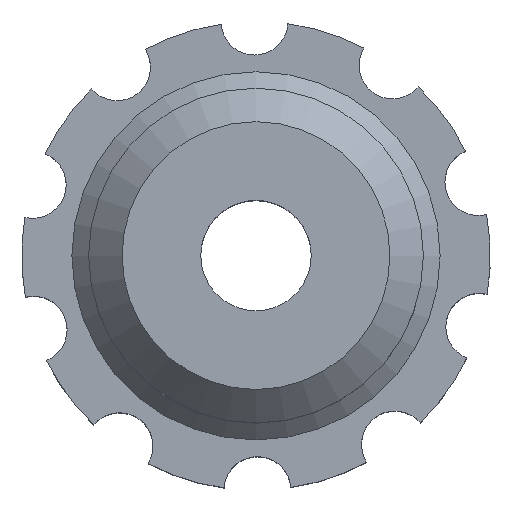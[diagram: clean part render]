
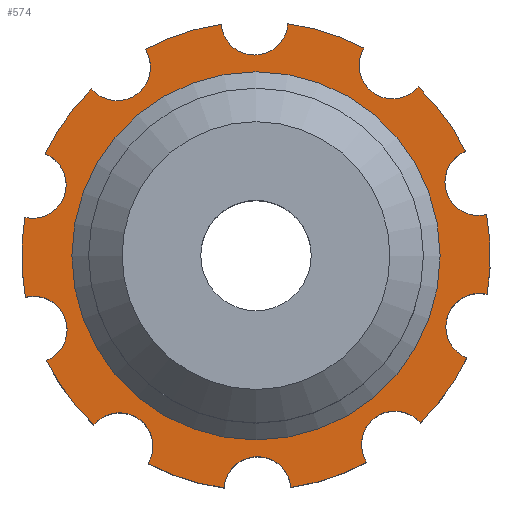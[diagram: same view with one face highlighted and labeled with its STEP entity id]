
A CAD part, top view. The second image highlights one B-rep face of the part: STEP entity #574.
In plain terms, the highlighted planar face has unit normal (0, 0, 1).
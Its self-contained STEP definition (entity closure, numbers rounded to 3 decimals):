
#42=FACE_BOUND('',#140,.T.);
#49=CIRCLE('',#611,5.5);
#51=CIRCLE('',#615,1.);
#52=CIRCLE('',#616,7.);
#53=CIRCLE('',#617,1.);
#54=CIRCLE('',#618,7.);
#55=CIRCLE('',#619,1.);
#56=CIRCLE('',#620,7.);
#57=CIRCLE('',#621,1.);
#58=CIRCLE('',#622,7.);
#59=CIRCLE('',#623,1.);
#60=CIRCLE('',#624,7.);
#61=CIRCLE('',#625,1.);
#62=CIRCLE('',#626,7.);
#63=CIRCLE('',#627,1.);
#64=CIRCLE('',#628,7.);
#65=CIRCLE('',#629,1.);
#66=CIRCLE('',#630,7.);
#67=CIRCLE('',#631,1.);
#68=CIRCLE('',#632,7.);
#69=CIRCLE('',#633,1.);
#70=CIRCLE('',#634,7.);
#102=FACE_OUTER_BOUND('',#139,.T.);
#139=EDGE_LOOP('',(#422,#423,#424,#425,#426,#427,#428,#429,#430,#431,#432,
#433,#434,#435,#436,#437,#438,#439,#440,#441));
#140=EDGE_LOOP('',(#442));
#259=VERTEX_POINT('',#924);
#261=VERTEX_POINT('',#930);
#262=VERTEX_POINT('',#931);
#263=VERTEX_POINT('',#933);
#264=VERTEX_POINT('',#935);
#265=VERTEX_POINT('',#937);
#266=VERTEX_POINT('',#939);
#267=VERTEX_POINT('',#941);
#268=VERTEX_POINT('',#943);
#269=VERTEX_POINT('',#945);
#270=VERTEX_POINT('',#947);
#271=VERTEX_POINT('',#949);
#272=VERTEX_POINT('',#951);
#273=VERTEX_POINT('',#953);
#274=VERTEX_POINT('',#955);
#275=VERTEX_POINT('',#957);
#276=VERTEX_POINT('',#959);
#277=VERTEX_POINT('',#961);
#278=VERTEX_POINT('',#963);
#279=VERTEX_POINT('',#965);
#280=VERTEX_POINT('',#967);
#323=EDGE_CURVE('',#259,#259,#49,.T.);
#325=EDGE_CURVE('',#261,#262,#51,.T.);
#326=EDGE_CURVE('',#262,#263,#52,.T.);
#327=EDGE_CURVE('',#263,#264,#53,.T.);
#328=EDGE_CURVE('',#264,#265,#54,.T.);
#329=EDGE_CURVE('',#265,#266,#55,.T.);
#330=EDGE_CURVE('',#266,#267,#56,.T.);
#331=EDGE_CURVE('',#267,#268,#57,.T.);
#332=EDGE_CURVE('',#268,#269,#58,.T.);
#333=EDGE_CURVE('',#269,#270,#59,.T.);
#334=EDGE_CURVE('',#270,#271,#60,.T.);
#335=EDGE_CURVE('',#271,#272,#61,.T.);
#336=EDGE_CURVE('',#272,#273,#62,.T.);
#337=EDGE_CURVE('',#273,#274,#63,.T.);
#338=EDGE_CURVE('',#274,#275,#64,.T.);
#339=EDGE_CURVE('',#275,#276,#65,.T.);
#340=EDGE_CURVE('',#276,#277,#66,.T.);
#341=EDGE_CURVE('',#277,#278,#67,.T.);
#342=EDGE_CURVE('',#278,#279,#68,.T.);
#343=EDGE_CURVE('',#279,#280,#69,.T.);
#344=EDGE_CURVE('',#280,#261,#70,.T.);
#422=ORIENTED_EDGE('',*,*,#325,.T.);
#423=ORIENTED_EDGE('',*,*,#326,.T.);
#424=ORIENTED_EDGE('',*,*,#327,.T.);
#425=ORIENTED_EDGE('',*,*,#328,.T.);
#426=ORIENTED_EDGE('',*,*,#329,.T.);
#427=ORIENTED_EDGE('',*,*,#330,.T.);
#428=ORIENTED_EDGE('',*,*,#331,.T.);
#429=ORIENTED_EDGE('',*,*,#332,.T.);
#430=ORIENTED_EDGE('',*,*,#333,.T.);
#431=ORIENTED_EDGE('',*,*,#334,.T.);
#432=ORIENTED_EDGE('',*,*,#335,.T.);
#433=ORIENTED_EDGE('',*,*,#336,.T.);
#434=ORIENTED_EDGE('',*,*,#337,.T.);
#435=ORIENTED_EDGE('',*,*,#338,.T.);
#436=ORIENTED_EDGE('',*,*,#339,.T.);
#437=ORIENTED_EDGE('',*,*,#340,.T.);
#438=ORIENTED_EDGE('',*,*,#341,.T.);
#439=ORIENTED_EDGE('',*,*,#342,.T.);
#440=ORIENTED_EDGE('',*,*,#343,.T.);
#441=ORIENTED_EDGE('',*,*,#344,.T.);
#442=ORIENTED_EDGE('',*,*,#323,.F.);
#562=PLANE('',#614);
#574=ADVANCED_FACE('',(#102,#42),#562,.T.);
#611=AXIS2_PLACEMENT_3D('',#925,#721,#722);
#614=AXIS2_PLACEMENT_3D('',#929,#727,#728);
#615=AXIS2_PLACEMENT_3D('',#932,#729,#730);
#616=AXIS2_PLACEMENT_3D('',#934,#731,#732);
#617=AXIS2_PLACEMENT_3D('',#936,#733,#734);
#618=AXIS2_PLACEMENT_3D('',#938,#735,#736);
#619=AXIS2_PLACEMENT_3D('',#940,#737,#738);
#620=AXIS2_PLACEMENT_3D('',#942,#739,#740);
#621=AXIS2_PLACEMENT_3D('',#944,#741,#742);
#622=AXIS2_PLACEMENT_3D('',#946,#743,#744);
#623=AXIS2_PLACEMENT_3D('',#948,#745,#746);
#624=AXIS2_PLACEMENT_3D('',#950,#747,#748);
#625=AXIS2_PLACEMENT_3D('',#952,#749,#750);
#626=AXIS2_PLACEMENT_3D('',#954,#751,#752);
#627=AXIS2_PLACEMENT_3D('',#956,#753,#754);
#628=AXIS2_PLACEMENT_3D('',#958,#755,#756);
#629=AXIS2_PLACEMENT_3D('',#960,#757,#758);
#630=AXIS2_PLACEMENT_3D('',#962,#759,#760);
#631=AXIS2_PLACEMENT_3D('',#964,#761,#762);
#632=AXIS2_PLACEMENT_3D('',#966,#763,#764);
#633=AXIS2_PLACEMENT_3D('',#968,#765,#766);
#634=AXIS2_PLACEMENT_3D('',#969,#767,#768);
#721=DIRECTION('center_axis',(0.,0.,1.));
#722=DIRECTION('ref_axis',(-1.,0.,0.));
#727=DIRECTION('center_axis',(0.,0.,1.));
#728=DIRECTION('ref_axis',(1.,0.,0.));
#729=DIRECTION('center_axis',(0.,0.,-1.));
#730=DIRECTION('ref_axis',(-0.852,0.523,0.));
#731=DIRECTION('center_axis',(0.,0.,1.));
#732=DIRECTION('ref_axis',(-1.,0.,0.));
#733=DIRECTION('center_axis',(0.,0.,-1.));
#734=DIRECTION('ref_axis',(-0.997,-0.078,0.));
#735=DIRECTION('center_axis',(0.,0.,1.));
#736=DIRECTION('ref_axis',(-1.,0.,0.));
#737=DIRECTION('center_axis',(0.,0.,-1.));
#738=DIRECTION('ref_axis',(-0.761,-0.649,0.));
#739=DIRECTION('center_axis',(0.,0.,1.));
#740=DIRECTION('ref_axis',(-1.,0.,0.));
#741=DIRECTION('center_axis',(0.,0.,-1.));
#742=DIRECTION('ref_axis',(-0.234,-0.972,0.));
#743=DIRECTION('center_axis',(0.,0.,1.));
#744=DIRECTION('ref_axis',(-1.,0.,0.));
#745=DIRECTION('center_axis',(0.,0.,-1.));
#746=DIRECTION('ref_axis',(0.382,-0.924,0.));
#747=DIRECTION('center_axis',(0.,0.,1.));
#748=DIRECTION('ref_axis',(-1.,0.,0.));
#749=DIRECTION('center_axis',(0.,0.,-1.));
#750=DIRECTION('ref_axis',(0.852,-0.523,0.));
#751=DIRECTION('center_axis',(0.,0.,1.));
#752=DIRECTION('ref_axis',(-1.,0.,0.));
#753=DIRECTION('center_axis',(0.,0.,-1.));
#754=DIRECTION('ref_axis',(0.997,0.078,0.));
#755=DIRECTION('center_axis',(0.,0.,1.));
#756=DIRECTION('ref_axis',(-1.,0.,0.));
#757=DIRECTION('center_axis',(0.,0.,-1.));
#758=DIRECTION('ref_axis',(0.761,0.649,0.));
#759=DIRECTION('center_axis',(0.,0.,1.));
#760=DIRECTION('ref_axis',(-1.,0.,0.));
#761=DIRECTION('center_axis',(0.,0.,-1.));
#762=DIRECTION('ref_axis',(0.234,0.972,0.));
#763=DIRECTION('center_axis',(0.,0.,1.));
#764=DIRECTION('ref_axis',(-1.,0.,0.));
#765=DIRECTION('center_axis',(0.,0.,-1.));
#766=DIRECTION('ref_axis',(-0.382,0.924,0.));
#767=DIRECTION('center_axis',(0.,0.,1.));
#768=DIRECTION('ref_axis',(-1.,0.,0.));
#924=CARTESIAN_POINT('',(5.5,0.,5.));
#925=CARTESIAN_POINT('Origin',(0.,0.,5.));
#929=CARTESIAN_POINT('Origin',(0.,0.,5.));
#930=CARTESIAN_POINT('',(4.847,5.05,5.));
#931=CARTESIAN_POINT('',(3.226,6.212,5.));
#932=CARTESIAN_POINT('Origin',(4.078,5.689,5.));
#933=CARTESIAN_POINT('',(0.953,6.935,5.));
#934=CARTESIAN_POINT('Origin',(0.,0.,5.));
#935=CARTESIAN_POINT('',(-1.042,6.922,5.));
#936=CARTESIAN_POINT('Origin',(-0.045,7.,5.));
#937=CARTESIAN_POINT('',(-3.305,6.171,5.));
#938=CARTESIAN_POINT('Origin',(0.,0.,5.));
#939=CARTESIAN_POINT('',(-4.911,4.988,5.));
#940=CARTESIAN_POINT('Origin',(-4.151,5.637,5.));
#941=CARTESIAN_POINT('',(-6.301,3.05,5.));
#942=CARTESIAN_POINT('Origin',(0.,0.,5.));
#943=CARTESIAN_POINT('',(-6.905,1.148,5.));
#944=CARTESIAN_POINT('Origin',(-6.671,2.121,5.));
#945=CARTESIAN_POINT('',(-6.89,-1.236,5.));
#946=CARTESIAN_POINT('Origin',(0.,0.,5.));
#947=CARTESIAN_POINT('',(-6.261,-3.13,5.));
#948=CARTESIAN_POINT('Origin',(-6.643,-2.206,5.));
#949=CARTESIAN_POINT('',(-4.847,-5.05,5.));
#950=CARTESIAN_POINT('Origin',(0.,0.,5.));
#951=CARTESIAN_POINT('',(-3.226,-6.212,5.));
#952=CARTESIAN_POINT('Origin',(-4.078,-5.689,5.));
#953=CARTESIAN_POINT('',(-0.953,-6.935,5.));
#954=CARTESIAN_POINT('Origin',(0.,0.,5.));
#955=CARTESIAN_POINT('',(1.042,-6.922,5.));
#956=CARTESIAN_POINT('Origin',(0.045,-7.,5.));
#957=CARTESIAN_POINT('',(3.305,-6.171,5.));
#958=CARTESIAN_POINT('Origin',(0.,0.,5.));
#959=CARTESIAN_POINT('',(4.911,-4.988,5.));
#960=CARTESIAN_POINT('Origin',(4.151,-5.637,5.));
#961=CARTESIAN_POINT('',(6.301,-3.05,5.));
#962=CARTESIAN_POINT('Origin',(0.,0.,5.));
#963=CARTESIAN_POINT('',(6.905,-1.148,5.));
#964=CARTESIAN_POINT('Origin',(6.671,-2.121,5.));
#965=CARTESIAN_POINT('',(6.89,1.236,5.));
#966=CARTESIAN_POINT('Origin',(0.,0.,5.));
#967=CARTESIAN_POINT('',(6.261,3.13,5.));
#968=CARTESIAN_POINT('Origin',(6.643,2.206,5.));
#969=CARTESIAN_POINT('Origin',(0.,0.,5.));
